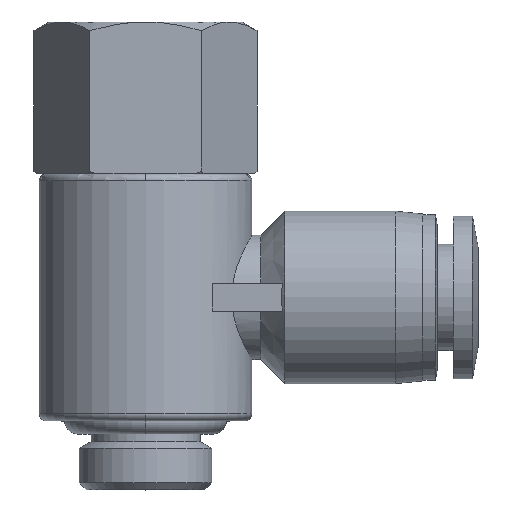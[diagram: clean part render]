
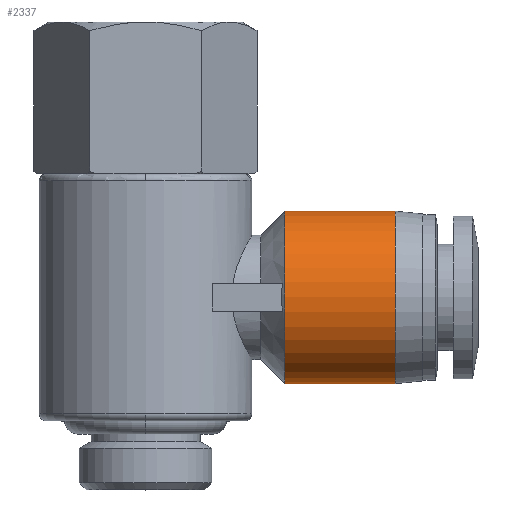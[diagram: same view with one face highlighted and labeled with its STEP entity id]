
A CAD part, top view. The second image highlights one B-rep face of the part: STEP entity #2337.
In plain terms, the highlighted cylindrical face has radius 6.25 mm (diameter 12.5 mm), a partial arc.
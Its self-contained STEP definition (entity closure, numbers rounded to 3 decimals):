
#45 = CARTESIAN_POINT ( 'NONE',  ( 18.1, 16.2, 0. ) ) ;
#91 = VECTOR ( 'NONE', #427, 1000. ) ;
#116 = EDGE_CURVE ( 'NONE', #2848, #118, #1339, .T. ) ;
#118 = VERTEX_POINT ( 'NONE', #1928 ) ;
#130 = DIRECTION ( 'NONE',  ( 0., -1., 0. ) ) ;
#236 = EDGE_CURVE ( 'NONE', #1603, #118, #625, .T. ) ;
#291 = DIRECTION ( 'NONE',  ( -1., 0., 0. ) ) ;
#427 = DIRECTION ( 'NONE',  ( -1., 0., 0. ) ) ;
#460 = ORIENTED_EDGE ( 'NONE', *, *, #236, .T. ) ;
#461 = EDGE_LOOP ( 'NONE', ( #2684, #460, #496, #2666 ) ) ;
#496 = ORIENTED_EDGE ( 'NONE', *, *, #116, .F. ) ;
#600 = CARTESIAN_POINT ( 'NONE',  ( 18.1, 22.45, 0. ) ) ;
#625 = LINE ( 'NONE', #2908, #91 ) ;
#733 = FACE_OUTER_BOUND ( 'NONE', #461, .T. ) ;
#782 = DIRECTION ( 'NONE',  ( 0., -1., 0. ) ) ;
#967 = EDGE_CURVE ( 'NONE', #1635, #1603, #2041, .T. ) ;
#1000 = CARTESIAN_POINT ( 'NONE',  ( 14.1, 22.45, 0. ) ) ;
#1310 = LINE ( 'NONE', #2536, #1487 ) ;
#1338 = CARTESIAN_POINT ( 'NONE',  ( 10.1, 16.2, 0. ) ) ;
#1339 = CIRCLE ( 'NONE', #2873, 6.25 ) ;
#1463 = CARTESIAN_POINT ( 'NONE',  ( 10.1, 22.45, 0. ) ) ;
#1487 = VECTOR ( 'NONE', #1992, 1000. ) ;
#1603 = VERTEX_POINT ( 'NONE', #1868 ) ;
#1635 = VERTEX_POINT ( 'NONE', #45 ) ;
#1674 = AXIS2_PLACEMENT_3D ( 'NONE', #1000, #291, #782 ) ;
#1707 = DIRECTION ( 'NONE',  ( 0., -1., 0. ) ) ;
#1868 = CARTESIAN_POINT ( 'NONE',  ( 18.1, 28.7, 0. ) ) ;
#1928 = CARTESIAN_POINT ( 'NONE',  ( 10.1, 28.7, 0. ) ) ;
#1992 = DIRECTION ( 'NONE',  ( -1., 0., 0. ) ) ;
#2041 = CIRCLE ( 'NONE', #2715, 6.25 ) ;
#2122 = CYLINDRICAL_SURFACE ( 'NONE', #1674, 6.25 ) ;
#2152 = DIRECTION ( 'NONE',  ( -1., 0., 0. ) ) ;
#2187 = EDGE_CURVE ( 'NONE', #1635, #2848, #1310, .T. ) ;
#2200 = DIRECTION ( 'NONE',  ( -1., 0., 0. ) ) ;
#2337 = ADVANCED_FACE ( 'NONE', ( #733 ), #2122, .T. ) ;
#2536 = CARTESIAN_POINT ( 'NONE',  ( 14.1, 16.2, 0. ) ) ;
#2666 = ORIENTED_EDGE ( 'NONE', *, *, #2187, .F. ) ;
#2684 = ORIENTED_EDGE ( 'NONE', *, *, #967, .T. ) ;
#2715 = AXIS2_PLACEMENT_3D ( 'NONE', #600, #2200, #1707 ) ;
#2848 = VERTEX_POINT ( 'NONE', #1338 ) ;
#2873 = AXIS2_PLACEMENT_3D ( 'NONE', #1463, #2152, #130 ) ;
#2908 = CARTESIAN_POINT ( 'NONE',  ( 14.1, 28.7, 0. ) ) ;
